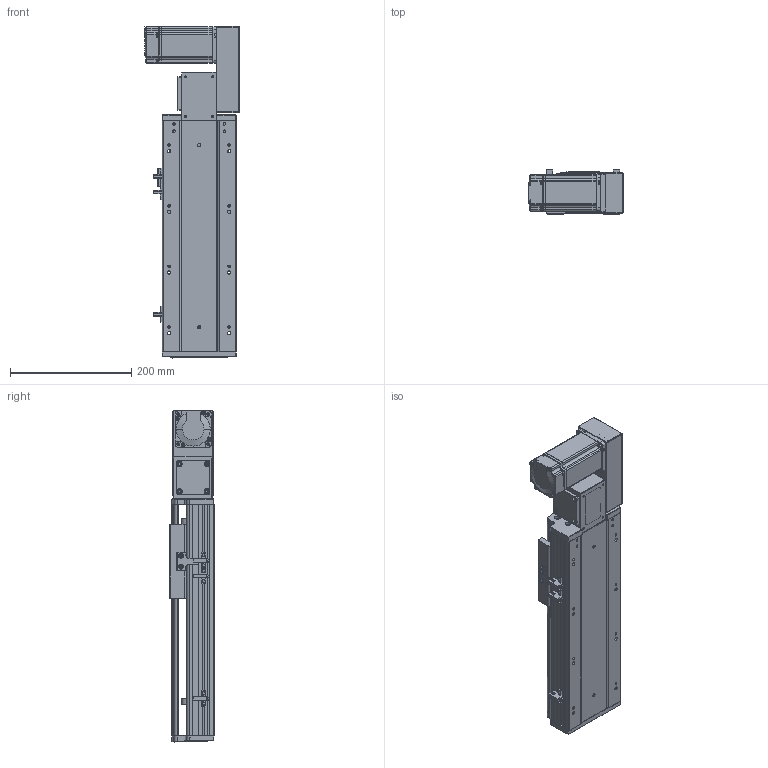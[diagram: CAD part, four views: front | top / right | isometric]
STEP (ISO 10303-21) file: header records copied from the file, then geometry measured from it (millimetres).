
FILE_DESCRIPTION (( 'STEP AP203' ), '1' );
FILE_NAME ('RY120-T-300-RK.SLDASM_150.step', '2021-03-01T03:52:18', ( '盈信电脑' ), ( '东莞市道滘镇水果街19号' ), 'SwSTEP 2.0', 'SolidWorks 2012', '' );
FILE_SCHEMA (( 'CONFIG_CONTROL_DESIGN' ));
Length unit declared in the file: millimetre
Products named in the file (17): RY120-T-300-RK.SLDASM_150; RY120-T主同步轮轴承压盖; RY120-T萇儂欶; RY120-T萇儂假蚾啣; RY120-T蹟翐M4; 15; RY120-T翋肮祭謫裔啣; 滅袉蝶18-10; RY120-T肮祭湍揤踡輸2; RY120-T翋肮祭盓傅釱; 覜茼ん672; RY120-T肮祭湍揤踡輸1; RY120綴裔啣; RY120外置感应片(140共用）; RY120肮祭湍臏賑輸; RY120-T-300-RK倰第菁釱_150; RY120-T-300-RK倰第奻裔啣_150
Assembly tree (22 placements, depth 2):
  RY120-T-300-RK.SLDASM_150
    RY120-T-300-RK倰第菁釱_150
    RY120-T-300-RK倰第奻裔啣_150
    RY120肮祭湍臏賑輸
    RY120綴裔啣
    覜茼ん672  x3
    RY120外置感应片(140共用）
    RY120-T肮祭湍揤踡輸1
    RY120-T肮祭湍揤踡輸2
    RY120-T翋肮祭盓傅釱
    滅袉蝶18-10  x2
    RY120-T翋肮祭謫裔啣
    15
    RY120-T萇儂假蚾啣
    RY120-T蹟翐M4  x4
    RY120-T萇儂欶
    RY120-T主同步轮轴承压盖
Bounding box: 155.5 x 73 x 547.5 mm (x, y, z)
Volume: 1756077.9 mm3; surface area: 612986.2 mm2
Topology: 23 solids, 23 shells, 2578 faces, 6996 edges, 4514 vertices
Faces by surface type: plane 1386, cylinder 916, cone 187, bspline 89
Entity records: 80947 total; most frequent: CARTESIAN_POINT 19908, ORIENTED_EDGE 12528, DIRECTION 11910, EDGE_CURVE 6264, VERTEX_POINT 4101, LINE 4056, VECTOR 4056, AXIS2_PLACEMENT_3D 3927
